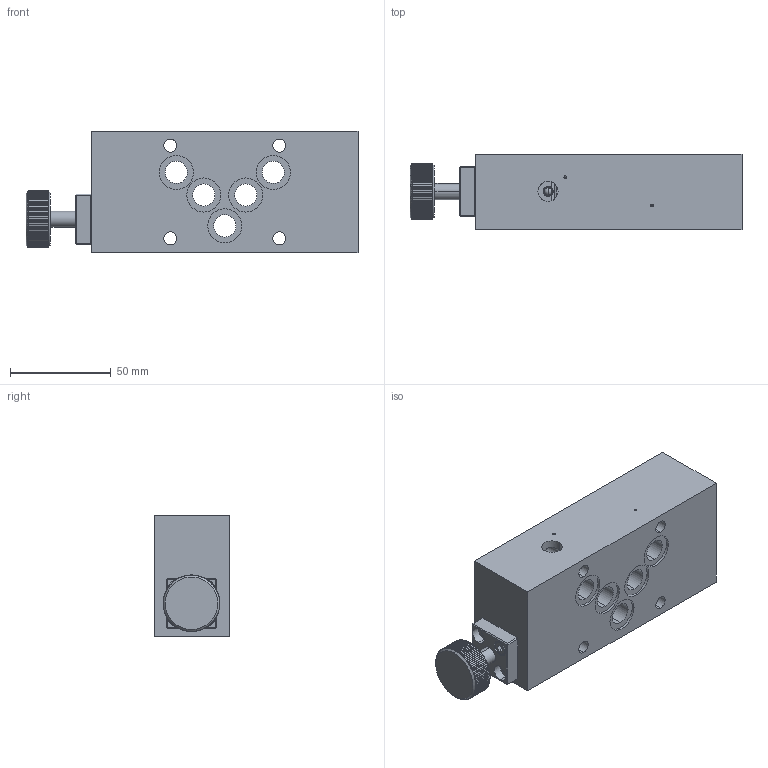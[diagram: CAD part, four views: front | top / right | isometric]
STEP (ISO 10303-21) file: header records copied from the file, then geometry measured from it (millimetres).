
FILE_DESCRIPTION (( 'STEP AP214' ), '1' );
FILE_NAME ('AAHP10_O.STEP', '2017-05-08T12:25:23', ( '' ), ( '' ), 'SwSTEP 2.0', 'SolidWorks 2016', '' );
FILE_SCHEMA (( 'AUTOMOTIVE_DESIGN' ));
Length unit declared in the file: millimetre
Products named in the file (1): AAHP10_O
Bounding box: 164.5 x 37.5 x 60 mm (x, y, z)
Volume: 283377.7 mm3; surface area: 46383.7 mm2
Topology: 8 solids, 9 shells, 537 faces, 1419 edges, 908 vertices
Faces by surface type: cylinder 353, plane 124, cone 48, torus 8, sphere 4
Entity records: 24433 total; most frequent: CARTESIAN_POINT 5464, ORIENTED_EDGE 2806, DIRECTION 2603, EDGE_CURVE 1403, AXIS2_PLACEMENT_3D 1015, VERTEX_POINT 908, EDGE_LOOP 595, VECTOR 573
